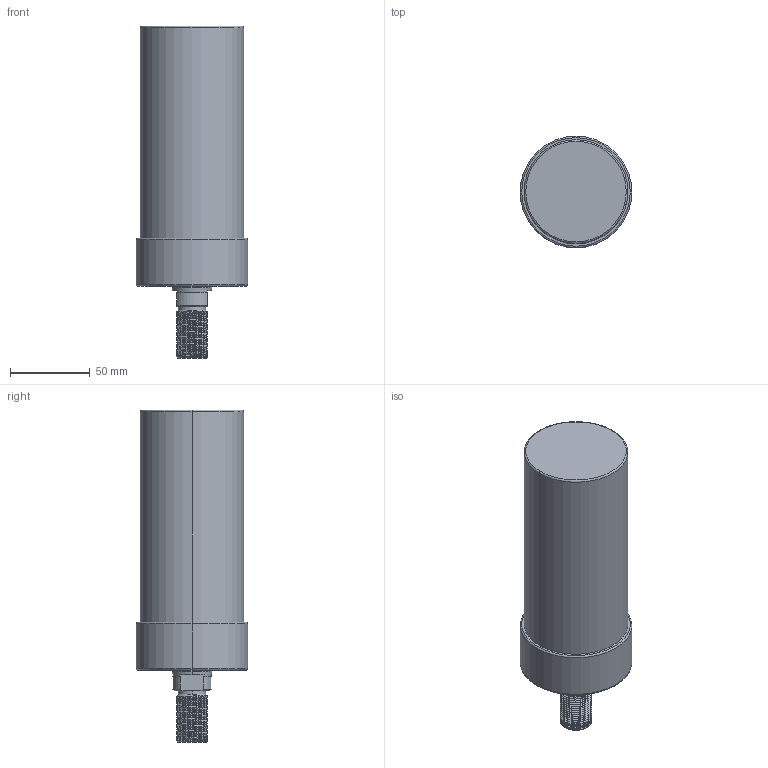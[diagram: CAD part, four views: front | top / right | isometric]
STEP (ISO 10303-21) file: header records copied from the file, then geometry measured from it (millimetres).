
FILE_DESCRIPTION (( 'STEP AP203' ), '1' );
FILE_NAME ('CLLU-065GT-100.STEP', '2020-01-16T02:12:23', ( '' ), ( '' ), 'SwSTEP 2.0', 'SolidWorks 2015', '' );
FILE_SCHEMA (( 'CONFIG_CONTROL_DESIGN' ));
Length unit declared in the file: millimetre
Products named in the file (1): CLLU-065GT-100
Bounding box: 70 x 70 x 208 mm (x, y, z)
Volume: 569655.5 mm3; surface area: 46504.7 mm2
Topology: 1 solids, 1 shells, 104 faces, 264 edges, 163 vertices
Faces by surface type: cylinder 60, cone 25, plane 11, torus 6, bspline 2
Entity records: 5313 total; most frequent: CARTESIAN_POINT 2979, ORIENTED_EDGE 512, DIRECTION 444, EDGE_CURVE 256, AXIS2_PLACEMENT_3D 178, VERTEX_POINT 163, EDGE_LOOP 113, ADVANCED_FACE 104
